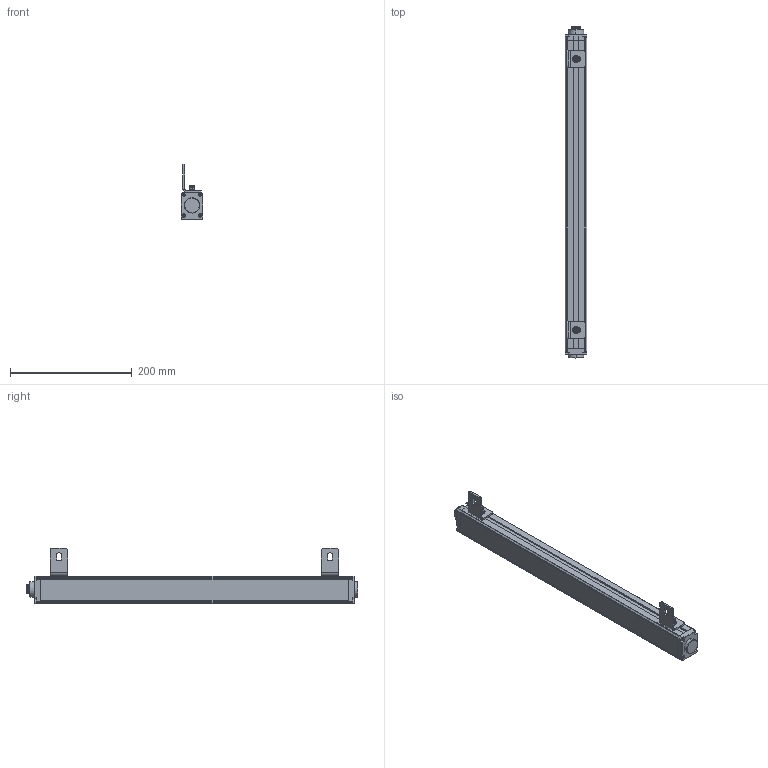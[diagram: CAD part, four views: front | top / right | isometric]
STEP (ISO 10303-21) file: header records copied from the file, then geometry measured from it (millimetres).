
FILE_DESCRIPTION((''),'2;1');
FILE_NAME('ESCL-00_ASM','2021-07-17T11:04:39',('18720616900'),(''),'CREO PARAMETRIC BY PTC INC, 2019010','CREO PARAMETRIC BY PTC INC, 2019010','');
FILE_SCHEMA(('CONFIG_CONTROL_DESIGN'));
Products named in the file (12): ESCL-00; ESCL-3-SOLID1000; ESCL-4-SOLID1000; HKCT1_-4-SOLID1; L10001; M6-8--0001; M6-1--00; M6-1-00; 00; M6-80001_ASM; L1--0001_ASM; ESCL-00_ASM
Assembly tree (12 placements, depth 4):
  ESCL-00_ASM
    ESCL-00
    ESCL-3-SOLID1000
    ESCL-4-SOLID1000
    HKCT1_-4-SOLID1
    L1--0001_ASM  x2
      L10001
      M6-80001_ASM
        M6-8--0001
        M6-1--00
        M6-1-00
        00
Bounding box: 36.1 x 545.1 x 91.11 mm (x, y, z)
Volume: 774936.1 mm3; surface area: 127072.4 mm2
Topology: 14 solids, 14 shells, 625 faces, 1645 edges, 1070 vertices
Faces by surface type: plane 226, cylinder 208, cone 78, bspline 66, torus 47
Entity records: 76177 total; most frequent: CARTESIAN_POINT 63991, ORIENTED_EDGE 2664, DIRECTION 2275, EDGE_CURVE 1332, VERTEX_POINT 872, AXIS2_PLACEMENT_3D 816, VECTOR 643, LINE 643
